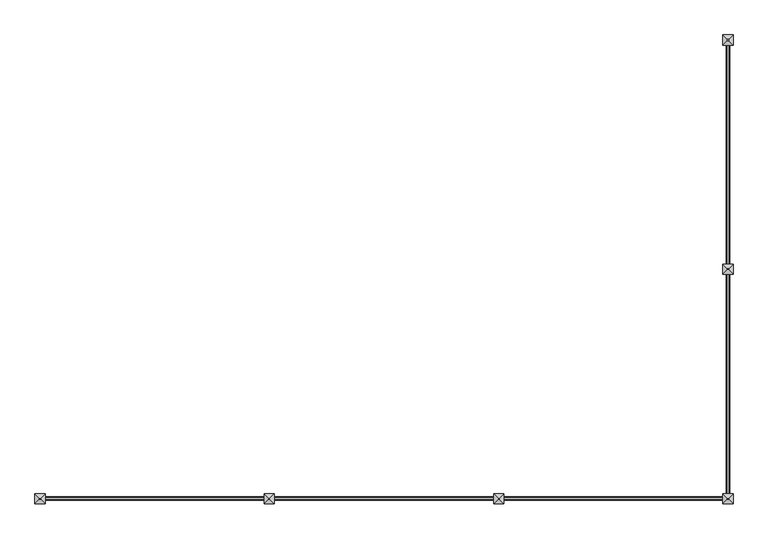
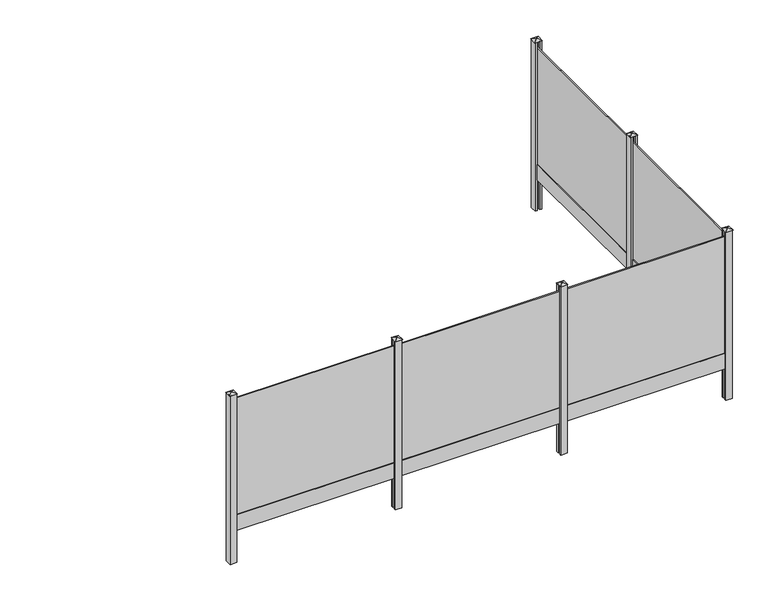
"""IFC4 building model written with IfcOpenShell, lengths in millimetres: railing geometry, Mehat - Railing - Plaque de Soubassement - Ardoise pour clôture rigide - 250x25x3.8 cm."""

from ifc_helpers import new_model, si_unit, frame, origin, origin_with_axes, place, context, project, spatial, polyline, outline, extrude, faceted_brep, source, transform, mapped, element, save


def railing_83dd5124(model_context):
    return source(origin(), model_context, "Body", "SolidModel", [
        extrude(outline(polyline([(-40163.7483484, -20967.4943936), (-40180.7483484, -20967.4943936), (-40180.7483484, -18467.4943936), (-40163.7483484, -18467.4943936), (-40163.7483484, -20967.4943936)])), frame((0.0, 0.0, 250.0), z_axis=(0.0, 0.0, 1.0), x_axis=(1.0, 0.0, 0.0)), (0.0, 0.0, 1.0), 1900.0),
        extrude(outline(polyline([(-40153.2483484, -20967.4943936), (-40191.2483484, -20967.4943936), (-40191.2483484, -18467.4943936), (-40153.2483484, -18467.4943936), (-40153.2483484, -20967.4943936)])), origin_with_axes(), (0.0, 0.0, 1.0), 250.0),
        extrude(outline(polyline([(-40122.2483484, -21042.4943936), (-40153.2483484, -21042.4943936), (-40153.2483484, -21017.4943936), (-40191.2483484, -21017.4943936), (-40191.2483484, -21042.4943936), (-40222.2483484, -21042.4943936), (-40222.2483484, -20942.4943936), (-40191.2483484, -20942.4943936), (-40191.2483484, -20967.4943936), (-40153.2483484, -20967.4943936), (-40153.2483484, -20942.4943936), (-40122.2483484, -20942.4943936), (-40122.2483484, -21042.4943936)])), frame((0.0, 0.0, -500.0), z_axis=(0.0, 0.0, 1.0), x_axis=(1.0, 0.0, 0.0)), (0.0, 0.0, 1.0), 2750.0),
        faceted_brep([(-40178.6528945, -20986.1443936, 2275.4), (-40178.6528945, -20998.8443936, 2275.4), (-40165.9528945, -20998.8443936, 2275.4), (-40165.9528945, -20986.1443936, 2275.4), (-40228.5983484, -20936.1443936, 2250.0), (-40115.8983484, -20936.1443936, 2250.0), (-40115.8983484, -21048.8443936, 2250.0), (-40228.5983484, -21048.8443936, 2250.0)], [[[0, 1, 2, 3]], [[4, 5, 6, 7]], [[4, 0, 3, 5]], [[5, 3, 2, 6]], [[6, 2, 1, 7]], [[7, 1, 0, 4]]]),
        extrude(outline(polyline([(-40163.7483484, -23517.4943936), (-40180.7483484, -23517.4943936), (-40180.7483484, -21017.4943936), (-40163.7483484, -21017.4943936), (-40163.7483484, -23517.4943936)])), frame((0.0, 0.0, 250.0), z_axis=(0.0, 0.0, 1.0), x_axis=(1.0, 0.0, 0.0)), (0.0, 0.0, 1.0), 1900.0),
        extrude(outline(polyline([(-40153.2483484, -23517.4943936), (-40191.2483484, -23517.4943936), (-40191.2483484, -21017.4943936), (-40153.2483484, -21017.4943936), (-40153.2483484, -23517.4943936)])), origin_with_axes(), (0.0, 0.0, 1.0), 250.0),
        extrude(outline(polyline([(-42697.2483484, -23550.9943936), (-42697.2483484, -23533.9943936), (-40197.2483484, -23533.9943936), (-40197.2483484, -23550.9943936), (-42697.2483484, -23550.9943936)])), frame((0.0, 0.0, 250.0), z_axis=(0.0, 0.0, 1.0), x_axis=(1.0, 0.0, 0.0)), (0.0, 0.0, 1.0), 1900.0),
        extrude(outline(polyline([(-42697.2483484, -23561.4943936), (-42697.2483484, -23523.4943936), (-40197.2483484, -23523.4943936), (-40197.2483484, -23561.4943936), (-42697.2483484, -23561.4943936)])), origin_with_axes(), (0.0, 0.0, 1.0), 250.0),
        extrude(outline(polyline([(-42772.2483484, -23592.4943936), (-42772.2483484, -23561.4943936), (-42747.2483484, -23561.4943936), (-42747.2483484, -23523.4943936), (-42772.2483484, -23523.4943936), (-42772.2483484, -23492.4943936), (-42672.2483484, -23492.4943936), (-42672.2483484, -23523.4943936), (-42697.2483484, -23523.4943936), (-42697.2483484, -23561.4943936), (-42672.2483484, -23561.4943936), (-42672.2483484, -23592.4943936), (-42772.2483484, -23592.4943936)])), frame((0.0, 0.0, -500.0), z_axis=(0.0, 0.0, 1.0), x_axis=(1.0, 0.0, 0.0)), (0.0, 0.0, 1.0), 2750.0),
        faceted_brep([(-42715.8983484, -23536.0898475, 2275.4), (-42728.5983484, -23536.0898475, 2275.4), (-42728.5983484, -23548.7898475, 2275.4), (-42715.8983484, -23548.7898475, 2275.4), (-42665.8983484, -23486.1443936, 2250.0), (-42665.8983484, -23598.8443936, 2250.0), (-42778.5983484, -23598.8443936, 2250.0), (-42778.5983484, -23486.1443936, 2250.0)], [[[0, 1, 2, 3]], [[4, 5, 6, 7]], [[4, 0, 3, 5]], [[5, 3, 2, 6]], [[6, 2, 1, 7]], [[7, 1, 0, 4]]]),
        extrude(outline(polyline([(-45247.2483484, -23550.9943936), (-45247.2483484, -23533.9943936), (-42747.2483484, -23533.9943936), (-42747.2483484, -23550.9943936), (-45247.2483484, -23550.9943936)])), frame((0.0, 0.0, 250.0), z_axis=(0.0, 0.0, 1.0), x_axis=(1.0, 0.0, 0.0)), (0.0, 0.0, 1.0), 1900.0),
        extrude(outline(polyline([(-45247.2483484, -23561.4943936), (-45247.2483484, -23523.4943936), (-42747.2483484, -23523.4943936), (-42747.2483484, -23561.4943936), (-45247.2483484, -23561.4943936)])), origin_with_axes(), (0.0, 0.0, 1.0), 250.0),
        extrude(outline(polyline([(-45322.2483484, -23592.4943936), (-45322.2483484, -23561.4943936), (-45297.2483484, -23561.4943936), (-45297.2483484, -23523.4943936), (-45322.2483484, -23523.4943936), (-45322.2483484, -23492.4943936), (-45222.2483484, -23492.4943936), (-45222.2483484, -23523.4943936), (-45247.2483484, -23523.4943936), (-45247.2483484, -23561.4943936), (-45222.2483484, -23561.4943936), (-45222.2483484, -23592.4943936), (-45322.2483484, -23592.4943936)])), frame((0.0, 0.0, -500.0), z_axis=(0.0, 0.0, 1.0), x_axis=(1.0, 0.0, 0.0)), (0.0, 0.0, 1.0), 2750.0),
        faceted_brep([(-45265.8983484, -23536.0898475, 2275.4), (-45278.5983484, -23536.0898475, 2275.4), (-45278.5983484, -23548.7898475, 2275.4), (-45265.8983484, -23548.7898475, 2275.4), (-45215.8983484, -23486.1443936, 2250.0), (-45215.8983484, -23598.8443936, 2250.0), (-45328.5983484, -23598.8443936, 2250.0), (-45328.5983484, -23486.1443936, 2250.0)], [[[0, 1, 2, 3]], [[4, 5, 6, 7]], [[4, 0, 3, 5]], [[5, 3, 2, 6]], [[6, 2, 1, 7]], [[7, 1, 0, 4]]]),
        extrude(outline(polyline([(-47797.2483484, -23550.9943936), (-47797.2483484, -23533.9943936), (-45297.2483484, -23533.9943936), (-45297.2483484, -23550.9943936), (-47797.2483484, -23550.9943936)])), frame((0.0, 0.0, 250.0), z_axis=(0.0, 0.0, 1.0), x_axis=(1.0, 0.0, 0.0)), (0.0, 0.0, 1.0), 1900.0),
        extrude(outline(polyline([(-47797.2483484, -23561.4943936), (-47797.2483484, -23523.4943936), (-45297.2483484, -23523.4943936), (-45297.2483484, -23561.4943936), (-47797.2483484, -23561.4943936)])), origin_with_axes(), (0.0, 0.0, 1.0), 250.0),
        extrude(outline(polyline([(-40222.2483484, -23592.4943936), (-40222.2483484, -23561.4943936), (-40197.2483484, -23561.4943936), (-40197.2483484, -23523.4943936), (-40222.2483484, -23523.4943936), (-40222.2483484, -23492.4943936), (-40191.2483484, -23492.4943936), (-40191.2483484, -23517.4943936), (-40153.2483484, -23517.4943936), (-40153.2483484, -23492.4943936), (-40122.2483484, -23492.4943936), (-40122.2483484, -23592.4943936), (-40222.2483484, -23592.4943936)])), frame((0.0, 0.0, -500.0), z_axis=(0.0, 0.0, 1.0), x_axis=(1.0, 0.0, 0.0)), (0.0, 0.0, 1.0), 2750.0),
        faceted_brep([(-40165.8983484, -23536.0898475, 2275.4), (-40178.5983484, -23536.0898475, 2275.4), (-40178.5983484, -23548.7898475, 2275.4), (-40165.8983484, -23548.7898475, 2275.4), (-40115.8983484, -23486.1443936, 2250.0), (-40115.8983484, -23598.8443936, 2250.0), (-40228.5983484, -23598.8443936, 2250.0), (-40228.5983484, -23486.1443936, 2250.0)], [[[0, 1, 2, 3]], [[4, 5, 6, 7]], [[4, 0, 3, 5]], [[5, 3, 2, 6]], [[6, 2, 1, 7]], [[7, 1, 0, 4]]]),
        extrude(outline(polyline([(-40122.2483484, -18492.4943936), (-40153.2483484, -18492.4943936), (-40153.2483484, -18467.4943936), (-40191.2483484, -18467.4943936), (-40191.2483484, -18492.4943936), (-40222.2483484, -18492.4943936), (-40222.2483484, -18392.4943936), (-40122.2483484, -18392.4943936), (-40122.2483484, -18492.4943936)])), frame((0.0, 0.0, -500.0), z_axis=(0.0, 0.0, 1.0), x_axis=(1.0, 0.0, 0.0)), (0.0, 0.0, 1.0), 2750.0),
        faceted_brep([(-40178.6528945, -18436.1443936, 2275.4), (-40178.6528945, -18448.8443936, 2275.4), (-40165.9528945, -18448.8443936, 2275.4), (-40165.9528945, -18436.1443936, 2275.4), (-40228.5983484, -18386.1443936, 2250.0), (-40115.8983484, -18386.1443936, 2250.0), (-40115.8983484, -18498.8443936, 2250.0), (-40228.5983484, -18498.8443936, 2250.0)], [[[0, 1, 2, 3]], [[4, 5, 6, 7]], [[4, 0, 3, 5]], [[5, 3, 2, 6]], [[6, 2, 1, 7]], [[7, 1, 0, 4]]]),
        extrude(outline(polyline([(-47872.2483484, -23592.4943936), (-47872.2483484, -23492.4943936), (-47772.2483484, -23492.4943936), (-47772.2483484, -23523.4943936), (-47797.2483484, -23523.4943936), (-47797.2483484, -23561.4943936), (-47772.2483484, -23561.4943936), (-47772.2483484, -23592.4943936), (-47872.2483484, -23592.4943936)])), frame((0.0, 0.0, -500.0), z_axis=(0.0, 0.0, 1.0), x_axis=(1.0, 0.0, 0.0)), (0.0, 0.0, 1.0), 2750.0),
        faceted_brep([(-47815.8983484, -23536.0898475, 2275.4), (-47828.5983484, -23536.0898475, 2275.4), (-47828.5983484, -23548.7898475, 2275.4), (-47815.8983484, -23548.7898475, 2275.4), (-47765.8983484, -23486.1443936, 2250.0), (-47765.8983484, -23598.8443936, 2250.0), (-47878.5983484, -23598.8443936, 2250.0), (-47878.5983484, -23486.1443936, 2250.0)], [[[0, 1, 2, 3]], [[4, 5, 6, 7]], [[4, 0, 3, 5]], [[5, 3, 2, 6]], [[6, 2, 1, 7]], [[7, 1, 0, 4]]]),
    ])


if __name__ == "__main__":
    model = new_model("IFC4")
    model_context = context("Model", 3, world=origin())
    ifc_project = project(units=[si_unit("LENGTHUNIT", "METRE", prefix="MILLI")], contexts=[model_context])
    site = spatial("IfcSite", under=ifc_project)
    building = spatial("IfcBuilding", under=site)
    placement = place(None, origin())
    railing_shape = railing_83dd5124(model_context)
    element("IfcRailing", 1, ObjectType="Mehat - Railing - Plaque de Soubassement - Ardoise pour clôture rigide - 250x25x3.8 cm", at=placement, inside=building, context=model_context, shape_type="MappedRepresentation", body=[
        mapped(railing_shape, transform((0.0, 0.0, 0.0), x_axis=(1.0, 0.0, 0.0), y_axis=(0.0, 1.0, 0.0), z_axis=(0.0, 0.0, 1.0))),
    ])
    save(model, "model.ifc")
